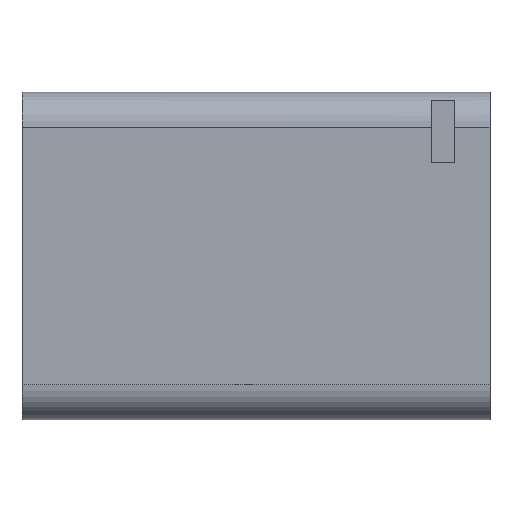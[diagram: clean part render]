
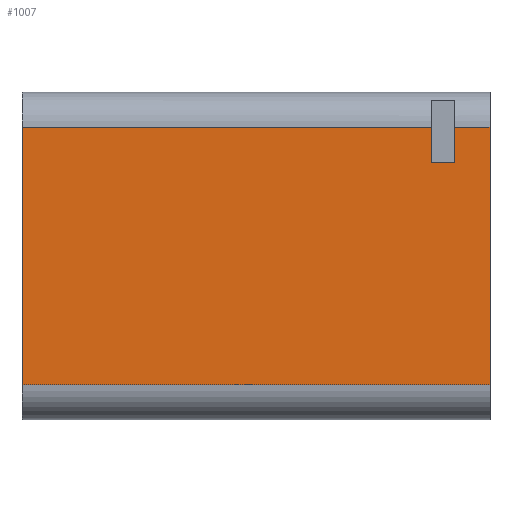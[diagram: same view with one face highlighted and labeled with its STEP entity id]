
A CAD part, top view. The second image highlights one B-rep face of the part: STEP entity #1007.
In plain terms, the highlighted planar face has unit normal (0, 0, 1).
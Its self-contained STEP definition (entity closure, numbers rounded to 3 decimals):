
#966=AXIS2_PLACEMENT_3D('Plane Axis2P3D',#963,#964,#965) ;
#667=CARTESIAN_POINT('Vertex',(9.3,-5.5,2.)) ;
#670=CARTESIAN_POINT('Line Origine',(-0.7,-5.5,2.)) ;
#674=CARTESIAN_POINT('Vertex',(-10.7,-5.5,2.)) ;
#905=CARTESIAN_POINT('Line Origine',(-0.7,5.5,2.)) ;
#909=CARTESIAN_POINT('Vertex',(9.3,5.5,2.)) ;
#911=CARTESIAN_POINT('Vertex',(7.8,5.5,2.)) ;
#923=CARTESIAN_POINT('Vertex',(-10.7,5.5,2.)) ;
#926=CARTESIAN_POINT('Line Origine',(-0.7,5.5,2.)) ;
#930=CARTESIAN_POINT('Vertex',(6.8,5.5,2.)) ;
#963=CARTESIAN_POINT('Axis2P3D Location',(0.,0.,2.)) ;
#968=CARTESIAN_POINT('Line Origine',(-10.7,0.,2.)) ;
#973=CARTESIAN_POINT('Line Origine',(9.3,0.,2.)) ;
#978=CARTESIAN_POINT('Line Origine',(7.8,4.75,2.)) ;
#982=CARTESIAN_POINT('Vertex',(7.8,4.,2.)) ;
#985=CARTESIAN_POINT('Line Origine',(7.3,4.,2.)) ;
#989=CARTESIAN_POINT('Vertex',(6.8,4.,2.)) ;
#992=CARTESIAN_POINT('Line Origine',(6.8,4.75,2.)) ;
#671=DIRECTION('Vector Direction',(1.,0.,0.)) ;
#906=DIRECTION('Vector Direction',(1.,0.,0.)) ;
#927=DIRECTION('Vector Direction',(1.,0.,0.)) ;
#964=DIRECTION('Axis2P3D Direction',(0.,0.,1.)) ;
#965=DIRECTION('Axis2P3D XDirection',(1.,0.,0.)) ;
#969=DIRECTION('Vector Direction',(0.,-1.,0.)) ;
#974=DIRECTION('Vector Direction',(0.,1.,0.)) ;
#979=DIRECTION('Vector Direction',(0.,1.,0.)) ;
#986=DIRECTION('Vector Direction',(-1.,0.,0.)) ;
#993=DIRECTION('Vector Direction',(0.,-1.,0.)) ;
#672=VECTOR('Line Direction',#671,1.) ;
#907=VECTOR('Line Direction',#906,1.) ;
#928=VECTOR('Line Direction',#927,1.) ;
#970=VECTOR('Line Direction',#969,1.) ;
#975=VECTOR('Line Direction',#974,1.) ;
#980=VECTOR('Line Direction',#979,1.) ;
#987=VECTOR('Line Direction',#986,1.) ;
#994=VECTOR('Line Direction',#993,1.) ;
#998=ORIENTED_EDGE('',*,*,#932,.T.) ;
#999=ORIENTED_EDGE('',*,*,#972,.T.) ;
#1000=ORIENTED_EDGE('',*,*,#676,.T.) ;
#1001=ORIENTED_EDGE('',*,*,#977,.T.) ;
#1002=ORIENTED_EDGE('',*,*,#913,.T.) ;
#1003=ORIENTED_EDGE('',*,*,#984,.F.) ;
#1004=ORIENTED_EDGE('',*,*,#991,.F.) ;
#1005=ORIENTED_EDGE('',*,*,#996,.F.) ;
#1007=ADVANCED_FACE('\X2\96F64EF651E04F554F53\X0\',(#1006),#967,.T.) ;
#676=EDGE_CURVE('',#675,#668,#673,.T.) ;
#913=EDGE_CURVE('',#910,#912,#908,.F.) ;
#932=EDGE_CURVE('',#931,#924,#929,.F.) ;
#972=EDGE_CURVE('',#924,#675,#971,.T.) ;
#977=EDGE_CURVE('',#668,#910,#976,.T.) ;
#984=EDGE_CURVE('',#983,#912,#981,.T.) ;
#991=EDGE_CURVE('',#990,#983,#988,.F.) ;
#996=EDGE_CURVE('',#931,#990,#995,.T.) ;
#997=EDGE_LOOP('',(#998,#999,#1000,#1001,#1002,#1003,#1004,#1005)) ;
#1006=FACE_OUTER_BOUND('',#997,.T.) ;
#673=LINE('Line',#670,#672) ;
#908=LINE('Line',#905,#907) ;
#929=LINE('Line',#926,#928) ;
#971=LINE('Line',#968,#970) ;
#976=LINE('Line',#973,#975) ;
#981=LINE('Line',#978,#980) ;
#988=LINE('Line',#985,#987) ;
#995=LINE('Line',#992,#994) ;
#967=PLANE('Plane',#966) ;
#668=VERTEX_POINT('',#667) ;
#675=VERTEX_POINT('',#674) ;
#910=VERTEX_POINT('',#909) ;
#912=VERTEX_POINT('',#911) ;
#924=VERTEX_POINT('',#923) ;
#931=VERTEX_POINT('',#930) ;
#983=VERTEX_POINT('',#982) ;
#990=VERTEX_POINT('',#989) ;
